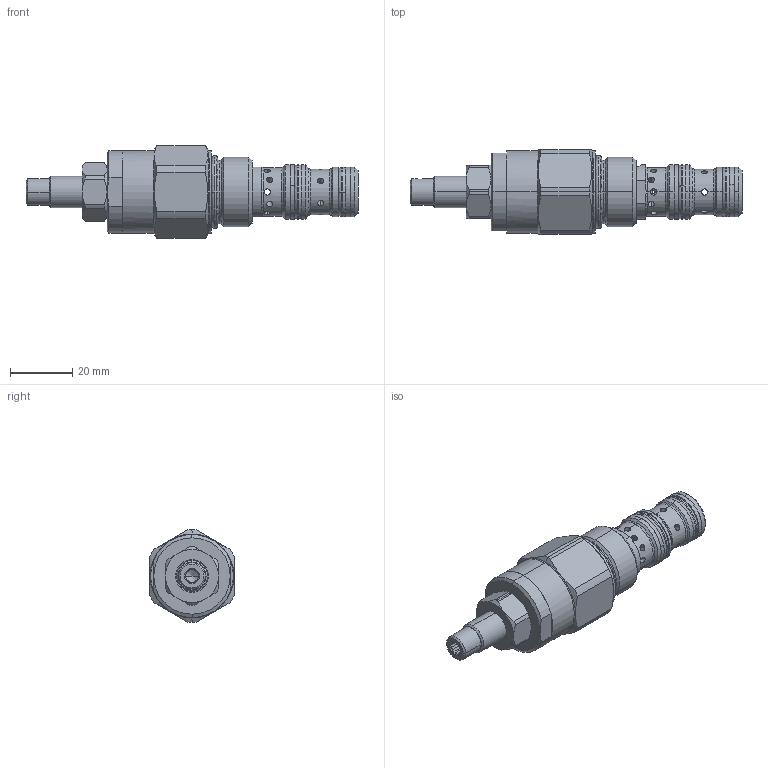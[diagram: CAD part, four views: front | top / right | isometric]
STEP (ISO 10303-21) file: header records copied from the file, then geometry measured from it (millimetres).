
FILE_DESCRIPTION (( 'STEP AP214' ), '1' );
FILE_NAME ('MDSPU10-80.STEP', '2017-09-05T08:58:04', ( '' ), ( '' ), 'SwSTEP 2.0', 'SolidWorks 2016', '' );
FILE_SCHEMA (( 'AUTOMOTIVE_DESIGN' ));
Length unit declared in the file: millimetre
Products named in the file (1): MDSPU10-80
Bounding box: 106.5 x 27 x 29.8 mm (x, y, z)
Volume: 33959.4 mm3; surface area: 10564 mm2
Topology: 5 solids, 7 shells, 335 faces, 819 edges, 479 vertices
Faces by surface type: cylinder 128, cone 88, plane 61, torus 34, bspline 24
Entity records: 14774 total; most frequent: CARTESIAN_POINT 3407, DIRECTION 1629, ORIENTED_EDGE 1606, EDGE_CURVE 803, AXIS2_PLACEMENT_3D 683, VERTEX_POINT 479, EDGE_LOOP 376, CIRCLE 371
